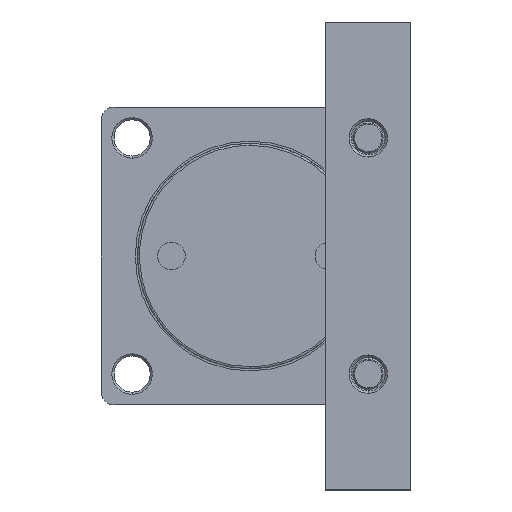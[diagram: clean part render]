
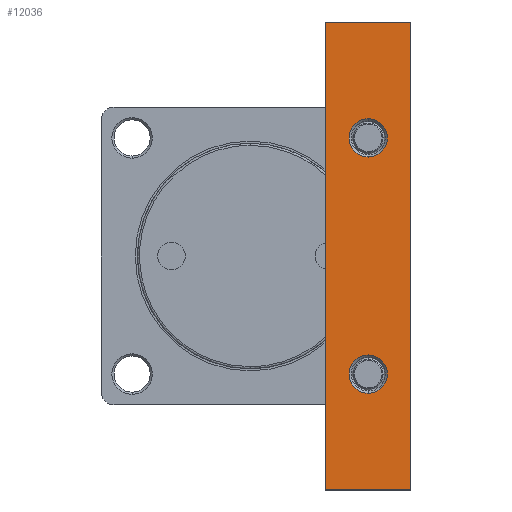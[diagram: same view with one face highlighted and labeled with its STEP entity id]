
A CAD part, left-side view. The second image highlights one B-rep face of the part: STEP entity #12036.
In plain terms, the highlighted planar face has unit normal (1, 0, 0).
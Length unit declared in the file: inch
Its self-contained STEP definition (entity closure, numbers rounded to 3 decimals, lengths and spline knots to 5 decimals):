
#55 = CARTESIAN_POINT ( 'NONE',  ( -2.61811, -2.97244, 4.33071 ) ) ;
#290 = CIRCLE ( 'NONE', #7266, 0.35433 ) ;
#356 = CARTESIAN_POINT ( 'NONE',  ( -2.61811, -1.39764, 4.33071 ) ) ;
#596 = VECTOR ( 'NONE', #8113, 39.37008 ) ;
#718 = DIRECTION ( 'NONE',  ( -1., 0., 0. ) ) ;
#1086 = EDGE_LOOP ( 'NONE', ( #4991, #4057, #9967, #7324 ) ) ;
#1162 = CARTESIAN_POINT ( 'NONE',  ( -2.61811, -1.39764, -4.33071 ) ) ;
#1335 = CARTESIAN_POINT ( 'NONE',  ( -2.61811, -2.18504, -2.53937 ) ) ;
#1565 = VERTEX_POINT ( 'NONE', #1162 ) ;
#2092 = ORIENTED_EDGE ( 'NONE', *, *, #7128, .T. ) ;
#2163 = DIRECTION ( 'NONE',  ( 0., 0., -1. ) ) ;
#2283 = DIRECTION ( 'NONE',  ( 0., -1., 0. ) ) ;
#2307 = CARTESIAN_POINT ( 'NONE',  ( -2.61811, -2.18504, 2.18504 ) ) ;
#2659 = EDGE_LOOP ( 'NONE', ( #4961, #3295 ) ) ;
#2870 = CIRCLE ( 'NONE', #11296, 0.35433 ) ;
#3011 = VERTEX_POINT ( 'NONE', #10885 ) ;
#3213 = PLANE ( 'NONE',  #13719 ) ;
#3295 = ORIENTED_EDGE ( 'NONE', *, *, #8891, .T. ) ;
#3372 = DIRECTION ( 'NONE',  ( 0., 0., -1. ) ) ;
#3411 = DIRECTION ( 'NONE',  ( 0., 0., 1. ) ) ;
#3465 = CARTESIAN_POINT ( 'NONE',  ( -2.61811, -2.18504, 2.53937 ) ) ;
#3589 = VERTEX_POINT ( 'NONE', #6998 ) ;
#3863 = VECTOR ( 'NONE', #11251, 39.37008 ) ;
#4057 = ORIENTED_EDGE ( 'NONE', *, *, #8965, .T. ) ;
#4494 = CARTESIAN_POINT ( 'NONE',  ( -2.61811, -1.39764, 4.33071 ) ) ;
#4595 = FACE_BOUND ( 'NONE', #2659, .T. ) ;
#4781 = EDGE_CURVE ( 'NONE', #1565, #13152, #9050, .T. ) ;
#4961 = ORIENTED_EDGE ( 'NONE', *, *, #9346, .T. ) ;
#4991 = ORIENTED_EDGE ( 'NONE', *, *, #4781, .T. ) ;
#5200 = AXIS2_PLACEMENT_3D ( 'NONE', #2307, #10037, #3411 ) ;
#5231 = CIRCLE ( 'NONE', #5200, 0.35433 ) ;
#5456 = CARTESIAN_POINT ( 'NONE',  ( -2.61811, -2.18504, -2.18504 ) ) ;
#5682 = EDGE_LOOP ( 'NONE', ( #7698, #2092 ) ) ;
#5756 = EDGE_CURVE ( 'NONE', #9182, #1565, #12306, .T. ) ;
#5777 = CARTESIAN_POINT ( 'NONE',  ( -2.61811, -2.18504, -2.18504 ) ) ;
#6527 = CARTESIAN_POINT ( 'NONE',  ( -2.61811, -2.18504, -1.83071 ) ) ;
#6569 = DIRECTION ( 'NONE',  ( 0., 0., 1. ) ) ;
#6585 = CARTESIAN_POINT ( 'NONE',  ( -2.61811, -2.97244, 4.33071 ) ) ;
#6867 = VERTEX_POINT ( 'NONE', #3465 ) ;
#6891 = DIRECTION ( 'NONE',  ( 0., 0., 1. ) ) ;
#6998 = CARTESIAN_POINT ( 'NONE',  ( -2.61811, -2.18504, 1.83071 ) ) ;
#7128 = EDGE_CURVE ( 'NONE', #3589, #6867, #5231, .T. ) ;
#7176 = AXIS2_PLACEMENT_3D ( 'NONE', #5456, #13162, #6569 ) ;
#7266 = AXIS2_PLACEMENT_3D ( 'NONE', #7362, #718, #8469 ) ;
#7324 = ORIENTED_EDGE ( 'NONE', *, *, #5756, .T. ) ;
#7362 = CARTESIAN_POINT ( 'NONE',  ( -2.61811, -2.18504, 2.18504 ) ) ;
#7698 = ORIENTED_EDGE ( 'NONE', *, *, #12604, .T. ) ;
#7739 = VECTOR ( 'NONE', #3372, 39.37008 ) ;
#8030 = VERTEX_POINT ( 'NONE', #1335 ) ;
#8113 = DIRECTION ( 'NONE',  ( 0., 0., 1. ) ) ;
#8280 = LINE ( 'NONE', #8923, #8605 ) ;
#8469 = DIRECTION ( 'NONE',  ( 0., 0., 1. ) ) ;
#8605 = VECTOR ( 'NONE', #2283, 39.37008 ) ;
#8798 = DIRECTION ( 'NONE',  ( 1., 0., 0. ) ) ;
#8891 = EDGE_CURVE ( 'NONE', #8030, #10470, #12556, .T. ) ;
#8923 = CARTESIAN_POINT ( 'NONE',  ( -2.61811, -2.97244, 4.33071 ) ) ;
#8965 = EDGE_CURVE ( 'NONE', #13152, #3011, #8280, .T. ) ;
#9050 = LINE ( 'NONE', #356, #596 ) ;
#9182 = VERTEX_POINT ( 'NONE', #9275 ) ;
#9275 = CARTESIAN_POINT ( 'NONE',  ( -2.61811, -2.97244, -4.33071 ) ) ;
#9346 = EDGE_CURVE ( 'NONE', #10470, #8030, #2870, .T. ) ;
#9967 = ORIENTED_EDGE ( 'NONE', *, *, #11480, .T. ) ;
#10037 = DIRECTION ( 'NONE',  ( -1., 0., 0. ) ) ;
#10145 = CARTESIAN_POINT ( 'NONE',  ( -2.61811, -2.97244, -4.33071 ) ) ;
#10470 = VERTEX_POINT ( 'NONE', #6527 ) ;
#10489 = FACE_BOUND ( 'NONE', #5682, .T. ) ;
#10885 = CARTESIAN_POINT ( 'NONE',  ( -2.61811, -2.97244, 4.33071 ) ) ;
#11251 = DIRECTION ( 'NONE',  ( 0., 1., 0. ) ) ;
#11296 = AXIS2_PLACEMENT_3D ( 'NONE', #5777, #13481, #6891 ) ;
#11480 = EDGE_CURVE ( 'NONE', #3011, #9182, #13596, .T. ) ;
#12036 = ADVANCED_FACE ( 'NONE', ( #13781, #10489, #4595 ), #3213, .T. ) ;
#12306 = LINE ( 'NONE', #10145, #3863 ) ;
#12556 = CIRCLE ( 'NONE', #7176, 0.35433 ) ;
#12604 = EDGE_CURVE ( 'NONE', #6867, #3589, #290, .T. ) ;
#13152 = VERTEX_POINT ( 'NONE', #4494 ) ;
#13162 = DIRECTION ( 'NONE',  ( -1., 0., 0. ) ) ;
#13481 = DIRECTION ( 'NONE',  ( -1., 0., 0. ) ) ;
#13596 = LINE ( 'NONE', #55, #7739 ) ;
#13719 = AXIS2_PLACEMENT_3D ( 'NONE', #6585, #8798, #2163 ) ;
#13781 = FACE_OUTER_BOUND ( 'NONE', #1086, .T. ) ;
